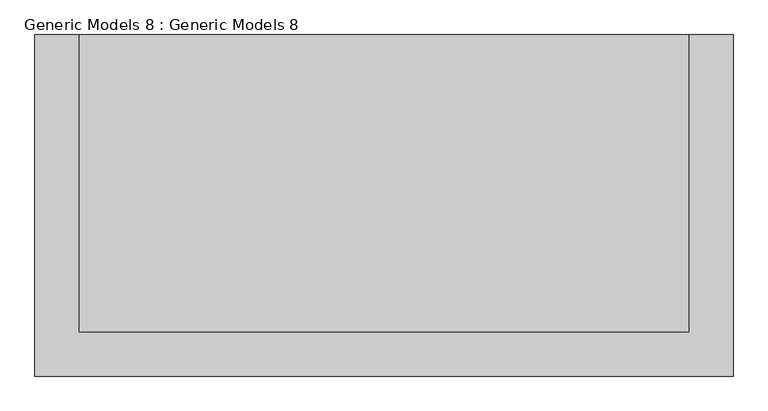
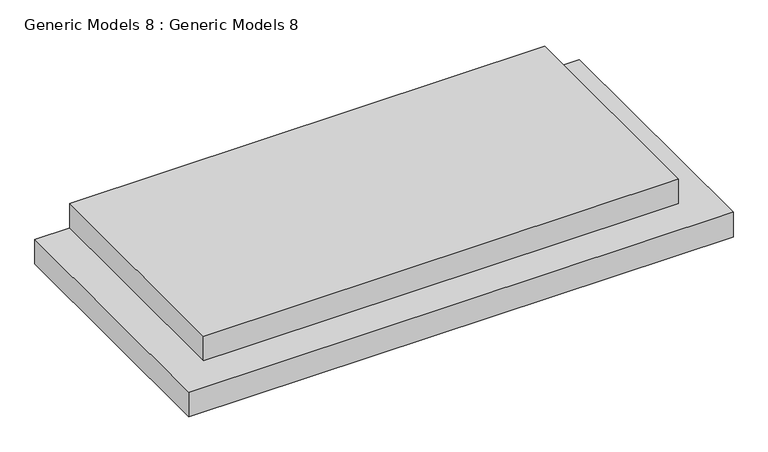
"""IFC4 building model written with IfcOpenShell, lengths in millimetres: proxy geometry, Generic Models 8 : Generic Models 8."""

from ifc_helpers import new_model, si_unit, frame, origin, place, context, project, spatial, polyline, outline, extrude, source, transform, mapped, element, save


def generic_models_8_generic_models_8_2f0d4162(model_context):
    return source(origin(), model_context, "Body", "SweptSolid", [
        extrude(outline(polyline([(7793.1337784, 10966.9206658), (11893.1337784, 10966.9206658), (11893.1337784, 12966.9206658), (12193.1337784, 12966.9206658), (12193.1337784, 10666.9206658), (7493.1337784, 10666.9206658), (7493.1337784, 12966.9206658), (7793.1337784, 12966.9206658), (7793.1337784, 10966.9206658)])), frame((0.0, 0.0, 1000.0), z_axis=(0.0, 0.0, 1.0), x_axis=(1.0, 0.0, 0.0)), (0.0, 0.0, 1.0), 225.0),
        extrude(outline(polyline([(7793.1337784, 12966.9206658), (11893.1337784, 12966.9206658), (11893.1337784, 10966.9206658), (7793.1337784, 10966.9206658), (7793.1337784, 12966.9206658)])), frame((0.0, 0.0, 1000.0), z_axis=(0.0, 0.0, 1.0), x_axis=(1.0, 0.0, 0.0)), (0.0, 0.0, 1.0), 450.0),
    ])


if __name__ == "__main__":
    model = new_model("IFC4")
    model_context = context("Model", 3, world=origin())
    ifc_project = project(units=[si_unit("LENGTHUNIT", "METRE", prefix="MILLI")], contexts=[model_context])
    site = spatial("IfcSite", under=ifc_project)
    building = spatial("IfcBuilding", under=site)
    placement = place(None, origin())
    generic_models_8_generic_models_8_shape = generic_models_8_generic_models_8_2f0d4162(model_context)
    element("IfcBuildingElementProxy", 1, Name="Generic Models 8 : Generic Models 8", ObjectType="Generic Models 8 : Generic Models 8", at=placement, inside=building, context=model_context, shape_type="MappedRepresentation", body=[
        mapped(generic_models_8_generic_models_8_shape, transform((0.0, 0.0, 0.0), x_axis=(1.0, 0.0, 0.0), y_axis=(0.0, 1.0, 0.0), z_axis=(0.0, 0.0, 1.0))),
    ])
    save(model, "model.ifc")
